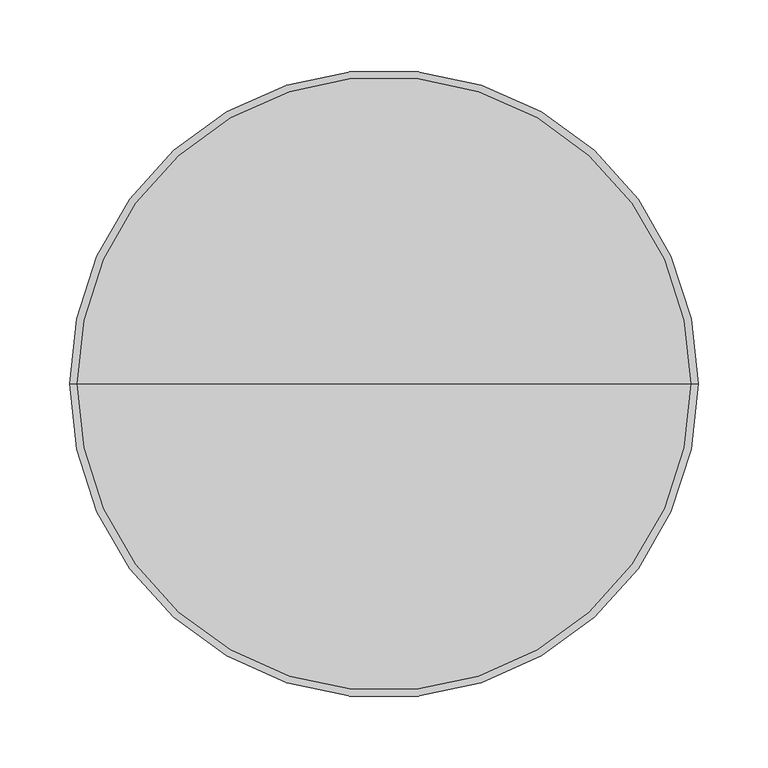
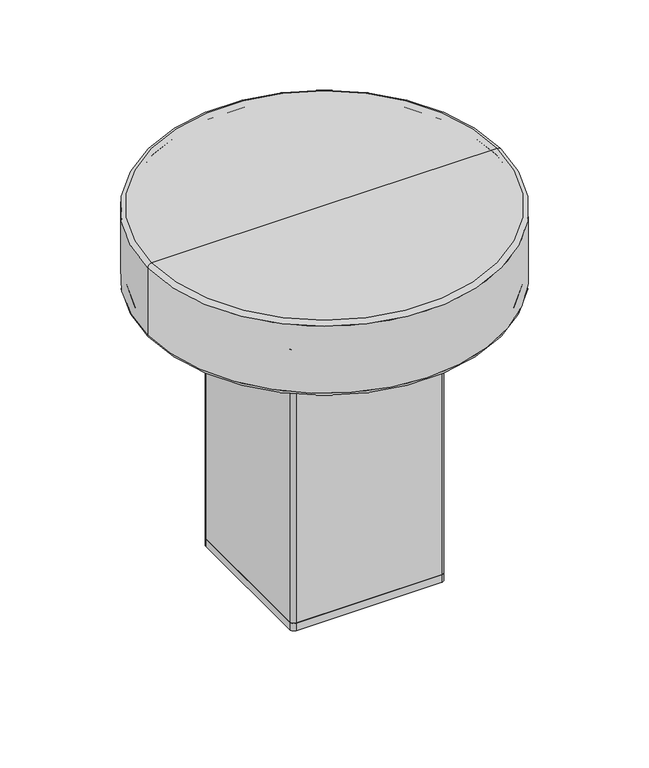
"""IFC4 building model written with IfcOpenShell, lengths in millimetres: furniture geometry, Norr11 - Naked - Side Table : Norr11 - Naked - Side Table."""

from ifc_helpers import new_model, si_unit, point, frame, origin, place, context, project, spatial, polyline, circle_curve, ellipse_curve, trimmed, source, transform, mapped, element, save
from ifc_brep_helpers import plane_surface, cylinder_surface, revolved_surface, advanced_brep


def furniture_36564df5(model_context):
    return source(origin(), model_context, "Body", "AdvancedBrep", [
        advanced_brep(
        [(-92.5, 97.5, 10.0), (-97.5, 92.5, 10.0), (-97.5, -92.5, 10.0), (-92.5, -97.5, 10.0), (92.5, -97.5, 10.0), (97.5, -92.5, 10.0), (97.5, 92.5, 10.0), (92.5, 97.5, 10.0), (86.5, 91.5, 10.0), (91.5, 86.5, 10.0), (91.5, -86.5, 10.0), (86.5, -91.5, 10.0), (-86.5, -91.5, 10.0), (-91.5, -86.5, 10.0), (-91.5, 86.5, 10.0), (-86.5, 91.5, 10.0), (-92.5, 97.5, 0.0), (92.5, 97.5, 0.0), (97.5, 92.5, 0.0), (97.5, -92.5, 0.0), (92.5, -97.5, 0.0), (-92.5, -97.5, 0.0), (-97.5, -92.5, 0.0), (-97.5, 92.5, 0.0), (86.5, 91.5, 40.0), (-86.5, 91.5, 40.0), (-91.5, 86.5, 40.0), (-91.5, -86.5, 40.0), (-86.5, -91.5, 40.0), (86.5, -91.5, 40.0), (91.5, -86.5, 40.0), (91.5, 86.5, 40.0)],
        [
            (0, 1, circle_curve(frame((-92.5, 92.5, 10.0), z_axis=(0.0, 0.0, 1.0), x_axis=(1.0, 0.0, 0.0)), 5.0)),
            (1, 2),
            (2, 3, circle_curve(frame((-92.5, -92.5, 10.0), z_axis=(0.0, 0.0, 1.0), x_axis=(1.0, 0.0, 0.0)), 5.0)),
            (3, 4),
            (4, 5, circle_curve(frame((92.5, -92.5, 10.0), z_axis=(0.0, 0.0, 1.0), x_axis=(1.0, 0.0, 0.0)), 5.0)),
            (5, 6),
            (6, 7, circle_curve(frame((92.5, 92.5, 10.0), z_axis=(0.0, 0.0, 1.0), x_axis=(1.0, 0.0, 0.0)), 5.0)),
            (7, 0),
            (8, 9, circle_curve(frame((86.5, 86.5, 10.0), z_axis=(0.0, 0.0, -1.0), x_axis=(1.0, 0.0, 0.0)), 5.0)),
            (9, 10),
            (10, 11, circle_curve(frame((86.5, -86.5, 10.0), z_axis=(0.0, 0.0, -1.0), x_axis=(1.0, 0.0, 0.0)), 5.0)),
            (11, 12),
            (12, 13, circle_curve(frame((-86.5, -86.5, 10.0), z_axis=(0.0, 0.0, -1.0), x_axis=(1.0, 0.0, 0.0)), 5.0)),
            (13, 14),
            (14, 15, circle_curve(frame((-86.5, 86.5, 10.0), z_axis=(0.0, 0.0, -1.0), x_axis=(1.0, 0.0, 0.0)), 5.0)),
            (15, 8),
            (16, 17),
            (17, 18, circle_curve(frame((92.5, 92.5, 0.0), z_axis=(0.0, 0.0, -1.0), x_axis=(1.0, 0.0, 0.0)), 5.0)),
            (18, 19),
            (19, 20, circle_curve(frame((92.5, -92.5, 0.0), z_axis=(0.0, 0.0, -1.0), x_axis=(1.0, 0.0, 0.0)), 5.0)),
            (20, 21),
            (21, 22, circle_curve(frame((-92.5, -92.5, 0.0), z_axis=(0.0, 0.0, -1.0), x_axis=(1.0, 0.0, 0.0)), 5.0)),
            (22, 23),
            (23, 16, circle_curve(frame((-92.5, 92.5, 0.0), z_axis=(0.0, 0.0, -1.0), x_axis=(1.0, 0.0, 0.0)), 5.0)),
            (0, 16),
            (23, 1),
            (22, 2),
            (21, 3),
            (20, 4),
            (19, 5),
            (18, 6),
            (17, 7),
            (24, 25),
            (25, 26, circle_curve(frame((-86.5, 86.5, 40.0), z_axis=(0.0, 0.0, 1.0), x_axis=(1.0, 0.0, 0.0)), 5.0)),
            (26, 27),
            (27, 28, circle_curve(frame((-86.5, -86.5, 40.0), z_axis=(0.0, 0.0, 1.0), x_axis=(1.0, 0.0, 0.0)), 5.0)),
            (28, 29),
            (29, 30, circle_curve(frame((86.5, -86.5, 40.0), z_axis=(0.0, 0.0, 1.0), x_axis=(1.0, 0.0, 0.0)), 5.0)),
            (30, 31),
            (31, 24, circle_curve(frame((86.5, 86.5, 40.0), z_axis=(0.0, 0.0, 1.0), x_axis=(1.0, 0.0, 0.0)), 5.0)),
            (31, 9),
            (8, 24),
            (30, 10),
            (29, 11),
            (28, 12),
            (27, 13),
            (26, 14),
            (25, 15),
        ],
        [
            plane_surface(frame((-87.5, 92.5, 10.0), z_axis=(0.0, 0.0, 1.0), x_axis=(0.0, 1.0, 0.0))),
            plane_surface(frame((-87.5, 92.5, 0.0), z_axis=(0.0, 0.0, -1.0), x_axis=(0.0, -1.0, 0.0))),
            cylinder_surface(frame((-92.5, 92.5, 0.0), z_axis=(0.0, 0.0, 1.0), x_axis=(1.0, 0.0, 0.0)), 5.0),
            plane_surface(frame((-97.5, 92.5, 10.0), z_axis=(-1.0, 0.0, 0.0), x_axis=(0.0, 0.0, -1.0))),
            cylinder_surface(frame((-92.5, -92.5, 0.0), z_axis=(0.0, 0.0, 1.0), x_axis=(1.0, 0.0, 0.0)), 5.0),
            plane_surface(frame((-92.5, -97.5, 10.0), z_axis=(0.0, -1.0, 0.0), x_axis=(0.0, 0.0, -1.0))),
            cylinder_surface(frame((92.5, -92.5, 0.0), z_axis=(0.0, 0.0, 1.0), x_axis=(1.0, 0.0, 0.0)), 5.0),
            plane_surface(frame((97.5, -92.5, 10.0), z_axis=(1.0, 0.0, 0.0), x_axis=(0.0, 0.0, -1.0))),
            cylinder_surface(frame((92.5, 92.5, 0.0), z_axis=(0.0, 0.0, 1.0), x_axis=(1.0, 0.0, 0.0)), 5.0),
            plane_surface(frame((92.5, 97.5, 10.0), z_axis=(0.0, 1.0, 0.0), x_axis=(0.0, 0.0, -1.0))),
            plane_surface(frame((-139.0, 91.5, 40.0), z_axis=(0.0, 0.0, 1.0), x_axis=(-1.0, 0.0, 0.0))),
            cylinder_surface(frame((86.5, 86.5, 10.0), z_axis=(0.0, 0.0, 1.0), x_axis=(1.0, 0.0, 0.0)), 5.0),
            plane_surface(frame((91.5, -86.5, 40.0), z_axis=(1.0, 0.0, 0.0), x_axis=(0.0, 0.0, -1.0))),
            cylinder_surface(frame((86.5, -86.5, 10.0), z_axis=(0.0, 0.0, 1.0), x_axis=(1.0, 0.0, 0.0)), 5.0),
            plane_surface(frame((-86.5, -91.5, 40.0), z_axis=(0.0, -1.0, 0.0), x_axis=(0.0, 0.0, -1.0))),
            cylinder_surface(frame((-86.5, -86.5, 10.0), z_axis=(0.0, 0.0, 1.0), x_axis=(1.0, 0.0, 0.0)), 5.0),
            plane_surface(frame((-91.5, 86.5, 40.0), z_axis=(-1.0, 0.0, 0.0), x_axis=(0.0, 0.0, -1.0))),
            cylinder_surface(frame((-86.5, 86.5, 10.0), z_axis=(0.0, 0.0, 1.0), x_axis=(1.0, 0.0, 0.0)), 5.0),
            plane_surface(frame((86.5, 91.5, 40.0), z_axis=(0.0, 1.0, 0.0), x_axis=(0.0, 0.0, -1.0))),
        ],
        [
            (0, [[1, 2, 3, 4, 5, 6, 7, 8], [9, 10, 11, 12, 13, 14, 15, 16]]),
            (1, [[17, 18, 19, 20, 21, 22, 23, 24]]),
            (2, [[-1, 25, -24, 26]]),
            (3, [[-2, -26, -23, 27]]),
            (4, [[-3, -27, -22, 28]]),
            (5, [[-4, -28, -21, 29]]),
            (6, [[-5, -29, -20, 30]]),
            (7, [[-6, -30, -19, 31]]),
            (8, [[-7, -31, -18, 32]]),
            (9, [[-8, -32, -17, -25]]),
            (10, [[33, 34, 35, 36, 37, 38, 39, 40]]),
            (11, [[-40, 41, -9, 42]]),
            (12, [[-39, 43, -10, -41]]),
            (13, [[-38, 44, -11, -43]]),
            (14, [[-37, 45, -12, -44]]),
            (15, [[-36, 46, -13, -45]]),
            (16, [[-35, 47, -14, -46]]),
            (17, [[-34, 48, -15, -47]]),
            (18, [[-33, -42, -16, -48]]),
        ],
    ),
        advanced_brep(
        [(225.0, 0.0, 475.0), (-225.0, 0.0, 475.0), (-220.0, 0.0, 480.0), (220.0, 0.0, 480.0), (225.0, 0.0, 385.0), (-225.0, 0.0, 385.0), (220.0, 0.0, 380.0), (-220.0, 0.0, 380.0), (102.5, 0.0, 380.0), (102.5, 92.5, 380.0), (92.5, 102.5, 380.0), (-92.5, 102.5, 380.0), (-102.5, 92.5, 380.0), (-102.5, 0.0, 380.0), (-102.5, -92.5, 380.0), (-92.5, -102.5, 380.0), (92.5, -102.5, 380.0), (102.5, -92.5, 380.0), (214.0, 0.0, 386.0), (-214.0, 0.0, 386.0), (-96.5, 0.0, 386.0), (-96.5, 86.5, 386.0), (-86.5, 96.5, 386.0), (86.5, 96.5, 386.0), (96.5, 86.5, 386.0), (96.5, 0.0, 386.0), (96.5, -86.5, 386.0), (86.5, -96.5, 386.0), (-86.5, -96.5, 386.0), (-96.5, -86.5, 386.0), (219.0, 0.0, 391.0), (-219.0, 0.0, 391.0), (219.0, 0.0, 469.0), (-219.0, 0.0, 469.0), (214.0, 0.0, 474.0), (-214.0, 0.0, 474.0), (0.0, 0.0, 474.0), (0.0, 0.0, 480.0), (-92.5, 97.5, 10.0), (92.5, 97.5, 10.0), (97.5, 92.5, 10.0), (97.5, -92.5, 10.0), (92.5, -97.5, 10.0), (-92.5, -97.5, 10.0), (-97.5, -92.5, 10.0), (-97.5, 92.5, 10.0), (-91.5, -86.5, 10.0), (-86.5, -91.5, 10.0), (86.5, -91.5, 10.0), (91.5, -86.5, 10.0), (91.5, 86.5, 10.0), (86.5, 91.5, 10.0), (-86.5, 91.5, 10.0), (-91.5, 86.5, 10.0), (-97.5, 92.5, 375.0), (-92.5, 97.5, 375.0), (-97.5, -92.5, 375.0), (-92.5, -97.5, 375.0), (92.5, -97.5, 375.0), (97.5, -92.5, 375.0), (97.5, 92.5, 375.0), (92.5, 97.5, 375.0), (-91.5, -86.5, 380.0), (-91.5, -86.5, 381.0), (-86.5, -91.5, 381.0), (-86.5, -91.5, 380.0), (86.5, -91.5, 381.0), (86.5, -91.5, 380.0), (91.5, -86.5, 381.0), (91.5, -86.5, 380.0), (91.5, 86.5, 381.0), (91.5, 86.5, 380.0), (86.5, 91.5, 381.0), (86.5, 91.5, 380.0), (-86.5, 91.5, 381.0), (-86.5, 91.5, 380.0), (-91.5, 86.5, 381.0), (-91.5, 86.5, 380.0)],
        [
            (0, 1, circle_curve(frame((0.0, 0.0, 475.0), z_axis=(0.0, 0.0, 1.0), x_axis=(-1.0, 0.0, 0.0)), 225.0)),
            (1, 2, circle_curve(frame((-220.0, 0.0, 475.0), z_axis=(0.0, 1.0, 0.0), x_axis=(1.0, 0.0, 0.0)), 5.0)),
            (2, 3, circle_curve(frame((0.0, 0.0, 480.0), z_axis=(0.0, 0.0, -1.0), x_axis=(-1.0, 0.0, 0.0)), 220.0)),
            (3, 0, circle_curve(frame((220.0, 0.0, 475.0), z_axis=(0.0, 1.0, 0.0), x_axis=(-1.0, 0.0, 0.0)), 5.0)),
            (1, 0, circle_curve(frame((0.0, 0.0, 475.0), z_axis=(0.0, 0.0, 1.0), x_axis=(-1.0, 0.0, 0.0)), 225.0)),
            (3, 2, circle_curve(frame((0.0, 0.0, 480.0), z_axis=(0.0, 0.0, -1.0), x_axis=(-1.0, 0.0, 0.0)), 220.0)),
            (0, 4),
            (4, 5, circle_curve(frame((0.0, 0.0, 385.0), z_axis=(0.0, 0.0, 1.0), x_axis=(-1.0, 0.0, 0.0)), 225.0)),
            (5, 1),
            (5, 4, circle_curve(frame((0.0, 0.0, 385.0), z_axis=(0.0, 0.0, 1.0), x_axis=(-1.0, 0.0, 0.0)), 225.0)),
            (4, 6, circle_curve(frame((220.0, 0.0, 385.0), z_axis=(0.0, 1.0, 0.0), x_axis=(-1.0, 0.0, 0.0)), 5.0)),
            (6, 7, circle_curve(frame((0.0, 0.0, 380.0), z_axis=(0.0, 0.0, 1.0), x_axis=(-1.0, 0.0, 0.0)), 220.0)),
            (7, 5, circle_curve(frame((-220.0, 0.0, 385.0), z_axis=(0.0, 1.0, 0.0), x_axis=(1.0, 0.0, 0.0)), 5.0)),
            (7, 6, circle_curve(frame((0.0, 0.0, 380.0), z_axis=(0.0, 0.0, 1.0), x_axis=(-1.0, 0.0, 0.0)), 220.0)),
            (6, 8),
            (8, 9),
            (9, 10, circle_curve(frame((92.5, 92.5, 380.0), z_axis=(0.0, 0.0, 1.0), x_axis=(1.0, 0.0, 0.0)), 10.0)),
            (10, 11),
            (11, 12, circle_curve(frame((-92.5, 92.5, 380.0), z_axis=(0.0, 0.0, 1.0), x_axis=(0.0, 1.0, 0.0)), 10.0)),
            (12, 13),
            (13, 7),
            (13, 14),
            (14, 15, circle_curve(frame((-92.5, -92.5, 380.0), z_axis=(0.0, 0.0, 1.0), x_axis=(-1.0, 0.0, 0.0)), 10.0)),
            (15, 16),
            (16, 17, circle_curve(frame((92.5, -92.5, 380.0), z_axis=(0.0, 0.0, 1.0), x_axis=(0.0, -1.0, 0.0)), 10.0)),
            (17, 8),
            (18, 19, circle_curve(frame((0.0, 0.0, 386.0), z_axis=(0.0, 0.0, 1.0), x_axis=(-1.0, 0.0, 0.0)), 214.0)),
            (19, 20),
            (20, 21),
            (21, 22, circle_curve(frame((-86.5, 86.5, 386.0), z_axis=(0.0, 0.0, -1.0), x_axis=(0.0, 1.0, 0.0)), 10.0)),
            (22, 23),
            (23, 24, circle_curve(frame((86.5, 86.5, 386.0), z_axis=(0.0, 0.0, -1.0), x_axis=(1.0, 0.0, 0.0)), 10.0)),
            (24, 25),
            (25, 18),
            (19, 18, circle_curve(frame((0.0, 0.0, 386.0), z_axis=(0.0, 0.0, 1.0), x_axis=(-1.0, 0.0, 0.0)), 214.0)),
            (25, 26),
            (26, 27, circle_curve(frame((86.5, -86.5, 386.0), z_axis=(0.0, 0.0, -1.0), x_axis=(0.0, -1.0, 0.0)), 10.0)),
            (27, 28),
            (28, 29, circle_curve(frame((-86.5, -86.5, 386.0), z_axis=(0.0, 0.0, -1.0), x_axis=(-1.0, 0.0, 0.0)), 10.0)),
            (29, 20),
            (18, 30, circle_curve(frame((214.0, 0.0, 391.0), z_axis=(0.0, -1.0, 0.0), x_axis=(-1.0, 0.0, 0.0)), 5.0)),
            (30, 31, circle_curve(frame((0.0, 0.0, 391.0), z_axis=(0.0, 0.0, 1.0), x_axis=(-1.0, 0.0, 0.0)), 219.0)),
            (31, 19, circle_curve(frame((-214.0, 0.0, 391.0), z_axis=(0.0, -1.0, 0.0), x_axis=(1.0, 0.0, 0.0)), 5.0)),
            (31, 30, circle_curve(frame((0.0, 0.0, 391.0), z_axis=(0.0, 0.0, 1.0), x_axis=(-1.0, 0.0, 0.0)), 219.0)),
            (30, 32),
            (32, 33, circle_curve(frame((0.0, 0.0, 469.0), z_axis=(0.0, 0.0, 1.0), x_axis=(-1.0, 0.0, 0.0)), 219.0)),
            (33, 31),
            (33, 32, circle_curve(frame((0.0, 0.0, 469.0), z_axis=(0.0, 0.0, 1.0), x_axis=(-1.0, 0.0, 0.0)), 219.0)),
            (32, 34, circle_curve(frame((214.0, 0.0, 469.0), z_axis=(0.0, -1.0, 0.0), x_axis=(-1.0, 0.0, 0.0)), 5.0)),
            (34, 35, circle_curve(frame((0.0, 0.0, 474.0), z_axis=(0.0, 0.0, 1.0), x_axis=(-1.0, 0.0, 0.0)), 214.0)),
            (35, 33, circle_curve(frame((-214.0, 0.0, 469.0), z_axis=(0.0, -1.0, 0.0), x_axis=(1.0, 0.0, 0.0)), 5.0)),
            (35, 34, circle_curve(frame((0.0, 0.0, 474.0), z_axis=(0.0, 0.0, 1.0), x_axis=(-1.0, 0.0, 0.0)), 214.0)),
            (34, 36),
            (36, 35),
            (2, 37),
            (37, 3),
            (38, 39),
            (39, 40, circle_curve(frame((92.5, 92.5, 10.0), z_axis=(0.0, 0.0, -1.0), x_axis=(1.0, 0.0, 0.0)), 5.0)),
            (40, 41),
            (41, 42, circle_curve(frame((92.5, -92.5, 10.0), z_axis=(0.0, 0.0, -1.0), x_axis=(1.0, 0.0, 0.0)), 5.0)),
            (42, 43),
            (43, 44, circle_curve(frame((-92.5, -92.5, 10.0), z_axis=(0.0, 0.0, -1.0), x_axis=(1.0, 0.0, 0.0)), 5.0)),
            (44, 45),
            (45, 38, circle_curve(frame((-92.5, 92.5, 10.0), z_axis=(0.0, 0.0, -1.0), x_axis=(1.0, 0.0, 0.0)), 5.0)),
            (46, 47, circle_curve(frame((-86.5, -86.5, 10.0), z_axis=(0.0, 0.0, 1.0), x_axis=(1.0, 0.0, 0.0)), 5.0)),
            (47, 48),
            (48, 49, circle_curve(frame((86.5, -86.5, 10.0), z_axis=(0.0, 0.0, 1.0), x_axis=(1.0, 0.0, 0.0)), 5.0)),
            (49, 50),
            (50, 51, circle_curve(frame((86.5, 86.5, 10.0), z_axis=(0.0, 0.0, 1.0), x_axis=(1.0, 0.0, 0.0)), 5.0)),
            (51, 52),
            (52, 53, circle_curve(frame((-86.5, 86.5, 10.0), z_axis=(0.0, 0.0, 1.0), x_axis=(1.0, 0.0, 0.0)), 5.0)),
            (53, 46),
            (45, 54),
            (54, 55, circle_curve(frame((-92.5, 92.5, 375.0), z_axis=(0.0, 0.0, -1.0), x_axis=(1.0, 0.0, 0.0)), 5.0)),
            (55, 38),
            (44, 56),
            (56, 54),
            (43, 57),
            (57, 56, circle_curve(frame((-92.5, -92.5, 375.0), z_axis=(0.0, 0.0, -1.0), x_axis=(1.0, 0.0, 0.0)), 5.0)),
            (42, 58),
            (58, 57),
            (41, 59),
            (59, 58, circle_curve(frame((92.5, -92.5, 375.0), z_axis=(0.0, 0.0, -1.0), x_axis=(1.0, 0.0, 0.0)), 5.0)),
            (40, 60),
            (60, 59),
            (39, 61),
            (61, 60, circle_curve(frame((92.5, 92.5, 375.0), z_axis=(0.0, 0.0, -1.0), x_axis=(1.0, 0.0, 0.0)), 5.0)),
            (55, 61),
            (62, 63),
            (63, 64, circle_curve(frame((-86.5, -86.5, 381.0), z_axis=(0.0, 0.0, 1.0), x_axis=(1.0, 0.0, 0.0)), 5.0)),
            (64, 65),
            (65, 62, circle_curve(frame((-86.5, -86.5, 380.0), z_axis=(0.0, 0.0, -1.0), x_axis=(1.0, 0.0, 0.0)), 5.0)),
            (64, 66),
            (66, 67),
            (67, 48),
            (47, 65),
            (66, 68, circle_curve(frame((86.5, -86.5, 381.0), z_axis=(0.0, 0.0, 1.0), x_axis=(1.0, 0.0, 0.0)), 5.0)),
            (68, 69),
            (69, 67, circle_curve(frame((86.5, -86.5, 380.0), z_axis=(0.0, 0.0, -1.0), x_axis=(1.0, 0.0, 0.0)), 5.0)),
            (68, 70),
            (70, 71),
            (71, 50),
            (49, 69),
            (70, 72, circle_curve(frame((86.5, 86.5, 381.0), z_axis=(0.0, 0.0, 1.0), x_axis=(1.0, 0.0, 0.0)), 5.0)),
            (72, 73),
            (73, 71, circle_curve(frame((86.5, 86.5, 380.0), z_axis=(0.0, 0.0, -1.0), x_axis=(1.0, 0.0, 0.0)), 5.0)),
            (72, 74),
            (74, 75),
            (75, 52),
            (51, 73),
            (74, 76, circle_curve(frame((-86.5, 86.5, 381.0), z_axis=(0.0, 0.0, 1.0), x_axis=(1.0, 0.0, 0.0)), 5.0)),
            (76, 77),
            (77, 75, circle_curve(frame((-86.5, 86.5, 380.0), z_axis=(0.0, 0.0, -1.0), x_axis=(1.0, 0.0, 0.0)), 5.0)),
            (62, 46),
            (53, 77),
            (76, 63),
            (14, 56, circle_curve(frame((-102.5, -92.5, 375.0), z_axis=(0.0, 1.0, 0.0), x_axis=(1.0, 0.0, 0.0)), 5.0)),
            (57, 15, circle_curve(frame((-92.5, -102.5, 375.0), z_axis=(1.0, 0.0, 0.0), x_axis=(0.0, 1.0, 0.0)), 5.0)),
            (58, 16, circle_curve(frame((92.5, -102.5, 375.0), z_axis=(1.0, 0.0, 0.0), x_axis=(0.0, 1.0, 0.0)), 5.0)),
            (59, 17, circle_curve(frame((102.5, -92.5, 375.0), z_axis=(0.0, 1.0, 0.0), x_axis=(-1.0, 0.0, 0.0)), 5.0)),
            (60, 9, circle_curve(frame((102.5, 92.5, 375.0), z_axis=(0.0, 1.0, 0.0), x_axis=(-1.0, 0.0, 0.0)), 5.0)),
            (61, 10, circle_curve(frame((92.5, 102.5, 375.0), z_axis=(-1.0, 0.0, 0.0), x_axis=(0.0, -1.0, 0.0)), 5.0)),
            (55, 11, circle_curve(frame((-92.5, 102.5, 375.0), z_axis=(-1.0, 0.0, 0.0), x_axis=(0.0, -1.0, 0.0)), 5.0)),
            (54, 12, circle_curve(frame((-102.5, 92.5, 375.0), z_axis=(0.0, -1.0, 0.0), x_axis=(1.0, 0.0, 0.0)), 5.0)),
            (28, 64, circle_curve(frame((-86.5, -96.5, 381.0), z_axis=(-1.0, 0.0, 0.0), x_axis=(0.0, 1.0, 0.0)), 5.0)),
            (63, 29, circle_curve(frame((-96.5, -86.5, 381.0), z_axis=(0.0, -1.0, 0.0), x_axis=(1.0, 0.0, 0.0)), 5.0)),
            (27, 66, circle_curve(frame((86.5, -96.5, 381.0), z_axis=(-1.0, 0.0, 0.0), x_axis=(0.0, 1.0, 0.0)), 5.0)),
            (26, 68, circle_curve(frame((96.5, -86.5, 381.0), z_axis=(0.0, -1.0, 0.0), x_axis=(-1.0, 0.0, 0.0)), 5.0)),
            (24, 70, circle_curve(frame((96.5, 86.5, 381.0), z_axis=(0.0, -1.0, 0.0), x_axis=(-1.0, 0.0, 0.0)), 5.0)),
            (23, 72, circle_curve(frame((86.5, 96.5, 381.0), z_axis=(1.0, 0.0, 0.0), x_axis=(0.0, -1.0, 0.0)), 5.0)),
            (22, 74, circle_curve(frame((-86.5, 96.5, 381.0), z_axis=(1.0, 0.0, 0.0), x_axis=(0.0, -1.0, 0.0)), 5.0)),
            (21, 76, circle_curve(frame((-96.5, 86.5, 381.0), z_axis=(0.0, 1.0, 0.0), x_axis=(1.0, 0.0, 0.0)), 5.0)),
        ],
        [
            revolved_surface(trimmed(ellipse_curve(frame((-220.0, 0.0, 475.0), z_axis=(0.0, -1.0, 0.0), x_axis=(1.0, 0.0, 0.0)), 5.0, 5.0), [point((-220.0, 0.0, 480.0))], [point((-225.0, 0.0, 475.0))], True, "CARTESIAN"), (0.0, 0.0, 445.0), (0.0, 0.0, -1.0)),
            cylinder_surface(frame((0.0, 0.0, 445.0), z_axis=(0.0, 0.0, -1.0), x_axis=(-1.0, 0.0, 0.0)), 225.0),
            revolved_surface(trimmed(ellipse_curve(frame((-220.0, 0.0, 385.0), z_axis=(0.0, -1.0, 0.0), x_axis=(1.0, 0.0, 0.0)), 5.0, 5.0), [point((-225.0, 0.0, 385.0))], [point((-220.0, 0.0, 380.0))], True, "CARTESIAN"), (0.0, 0.0, 445.0), (0.0, 0.0, -1.0)),
            plane_surface(frame((0.0, 0.0, 380.0), z_axis=(0.0, 0.0, -1.0), x_axis=(-1.0, 0.0, 0.0))),
            plane_surface(frame((0.0, 0.0, 386.0), z_axis=(0.0, 0.0, 1.0), x_axis=(-1.0, 0.0, 0.0))),
            revolved_surface(trimmed(ellipse_curve(frame((-214.0, 0.0, 391.0), z_axis=(0.0, 1.0, 0.0), x_axis=(1.0, 0.0, 0.0)), 5.0, 5.0), [point((-214.0, 0.0, 386.0))], [point((-219.0, 0.0, 391.0))], True, "CARTESIAN"), (0.0, 0.0, 445.0), (0.0, 0.0, -1.0)),
            revolved_surface(polyline([(-219.0, 0.0, 391.0), (-219.0, 0.0, 469.0)]), (0.0, 0.0, 445.0), (0.0, 0.0, -1.0)),
            revolved_surface(trimmed(ellipse_curve(frame((-214.0, 0.0, 469.0), z_axis=(0.0, 1.0, 0.0), x_axis=(1.0, 0.0, 0.0)), 5.0, 5.0), [point((-219.0, 0.0, 469.0))], [point((-214.0, 0.0, 474.0))], True, "CARTESIAN"), (0.0, 0.0, 445.0), (0.0, 0.0, -1.0)),
            plane_surface(frame((0.0, 0.0, 474.0), z_axis=(0.0, 0.0, -1.0), x_axis=(-1.0, 0.0, 0.0))),
            plane_surface(frame((0.0, 0.0, 480.0), z_axis=(0.0, 0.0, 1.0), x_axis=(-1.0, 0.0, 0.0))),
            plane_surface(frame((-87.5, 92.5, 10.0), z_axis=(0.0, 0.0, -1.0), x_axis=(0.0, -1.0, 0.0))),
            cylinder_surface(frame((-92.5, 92.5, 10.0), z_axis=(0.0, 0.0, 1.0), x_axis=(1.0, 0.0, 0.0)), 5.0),
            plane_surface(frame((-97.5, 92.5, 380.0), z_axis=(-1.0, 0.0, 0.0), x_axis=(0.0, 0.0, -1.0))),
            cylinder_surface(frame((-92.5, -92.5, 10.0), z_axis=(0.0, 0.0, 1.0), x_axis=(1.0, 0.0, 0.0)), 5.0),
            plane_surface(frame((-92.5, -97.5, 380.0), z_axis=(0.0, -1.0, 0.0), x_axis=(0.0, 0.0, -1.0))),
            cylinder_surface(frame((92.5, -92.5, 10.0), z_axis=(0.0, 0.0, 1.0), x_axis=(1.0, 0.0, 0.0)), 5.0),
            plane_surface(frame((97.5, -92.5, 380.0), z_axis=(1.0, 0.0, 0.0), x_axis=(0.0, 0.0, -1.0))),
            cylinder_surface(frame((92.5, 92.5, 10.0), z_axis=(0.0, 0.0, 1.0), x_axis=(1.0, 0.0, 0.0)), 5.0),
            plane_surface(frame((92.5, 97.5, 380.0), z_axis=(0.0, 1.0, 0.0), x_axis=(0.0, 0.0, -1.0))),
            revolved_surface(polyline([(-81.5, -86.5, 381.0), (-81.5, -86.5, 380.0)]), (-86.5, -86.5, 240.3530592), (0.0, 0.0, 1.0)),
            plane_surface(frame((-86.5, -91.5, 406.1624737), z_axis=(0.0, 1.0, 0.0), x_axis=(0.0, 0.0, -1.0))),
            revolved_surface(polyline([(91.5, -86.5, 381.0), (91.5, -86.5, 380.0)]), (86.5, -86.5, 240.3530592), (0.0, 0.0, 1.0)),
            plane_surface(frame((91.5, -86.5, 406.1624737), z_axis=(-1.0, 0.0, 0.0), x_axis=(0.0, 0.0, -1.0))),
            revolved_surface(polyline([(91.5, 86.5, 381.0), (91.5, 86.5, 380.0)]), (86.5, 86.5, 240.3530592), (0.0, 0.0, 1.0)),
            plane_surface(frame((86.5, 91.5, 406.1624737), z_axis=(0.0, -1.0, 0.0), x_axis=(0.0, 0.0, -1.0))),
            revolved_surface(polyline([(-81.5, 86.5, 381.0), (-81.5, 86.5, 380.0)]), (-86.5, 86.5, 240.3530592), (0.0, 0.0, 1.0)),
            plane_surface(frame((-91.5, 86.5, 406.1624737), z_axis=(1.0, 0.0, 0.0), x_axis=(0.0, 0.0, -1.0))),
            revolved_surface(polyline([(-81.5, 86.5, 10.0), (-81.5, 86.5, 380.0)]), (-86.5, 86.5, 0.0), (0.0, 0.0, -1.0)),
            revolved_surface(polyline([(91.5, 86.5, 10.0), (91.5, 86.5, 380.0)]), (86.5, 86.5, 0.0), (0.0, 0.0, -1.0)),
            revolved_surface(polyline([(91.5, -86.5, 10.0), (91.5, -86.5, 380.0)]), (86.5, -86.5, 0.0), (0.0, 0.0, -1.0)),
            revolved_surface(polyline([(-81.5, -86.5, 10.0), (-81.5, -86.5, 380.0)]), (-86.5, -86.5, 0.0), (0.0, 0.0, -1.0)),
            revolved_surface(trimmed(ellipse_curve(frame((-102.5, -92.5, 375.0), z_axis=(0.0, -1.0, 0.0), x_axis=(1.0, 0.0, 0.0)), 5.0, 5.0), [point((-97.5, -92.5, 375.0))], [point((-102.5, -92.5, 380.0))], True, "CARTESIAN"), (-92.5, -92.5, 0.0), (0.0, 0.0, 1.0)),
            revolved_surface(polyline([(92.5, -97.5, 375.0), (-92.5, -97.5, 375.0)]), (-92.5, -102.5, 375.0), (1.0, 0.0, 0.0)),
            revolved_surface(trimmed(ellipse_curve(frame((92.5, -102.5, 375.0), z_axis=(1.0, 0.0, 0.0), x_axis=(0.0, 1.0, 0.0)), 5.0, 5.0), [point((92.5, -97.5, 375.0))], [point((92.5, -102.5, 380.0))], True, "CARTESIAN"), (92.5, -92.5, 0.0), (0.0, 0.0, 1.0)),
            revolved_surface(polyline([(97.5, 92.5, 375.0), (97.5, -92.5, 375.0)]), (102.5, -92.5, 375.0), (0.0, 1.0, 0.0)),
            revolved_surface(trimmed(ellipse_curve(frame((102.5, 92.5, 375.0), z_axis=(0.0, 1.0, 0.0), x_axis=(-1.0, 0.0, 0.0)), 5.0, 5.0), [point((97.5, 92.5, 375.0))], [point((102.5, 92.5, 380.0))], True, "CARTESIAN"), (92.5, 92.5, 0.0), (0.0, 0.0, 1.0)),
            revolved_surface(polyline([(-92.5, 97.5, 375.0), (92.5, 97.5, 375.0)]), (92.5, 102.5, 375.0), (-1.0, 0.0, 0.0)),
            revolved_surface(trimmed(ellipse_curve(frame((-92.5, 102.5, 375.0), z_axis=(-1.0, 0.0, 0.0), x_axis=(0.0, -1.0, 0.0)), 5.0, 5.0), [point((-92.5, 97.5, 375.0))], [point((-92.5, 102.5, 380.0))], True, "CARTESIAN"), (-92.5, 92.5, 0.0), (0.0, 0.0, 1.0)),
            revolved_surface(polyline([(-97.5, -92.5, 375.0), (-97.5, 92.5, 375.0)]), (-102.5, 92.5, 375.0), (0.0, -1.0, 0.0)),
            revolved_surface(trimmed(ellipse_curve(frame((-96.5, -86.5, 381.0), z_axis=(0.0, 1.0, 0.0), x_axis=(1.0, 0.0, 0.0)), 5.0, 5.0), [point((-96.5, -86.5, 386.0))], [point((-91.5, -86.5, 381.0))], True, "CARTESIAN"), (-86.5, -86.5, 0.0), (0.0, 0.0, 1.0)),
            cylinder_surface(frame((-86.5, -96.5, 381.0), z_axis=(1.0, 0.0, 0.0), x_axis=(0.0, 1.0, 0.0)), 5.0),
            revolved_surface(trimmed(ellipse_curve(frame((86.5, -96.5, 381.0), z_axis=(-1.0, 0.0, 0.0), x_axis=(0.0, 1.0, 0.0)), 5.0, 5.0), [point((86.5, -96.5, 386.0))], [point((86.5, -91.5, 381.0))], True, "CARTESIAN"), (86.5, -86.5, 0.0), (0.0, 0.0, 1.0)),
            cylinder_surface(frame((96.5, -86.5, 381.0), z_axis=(0.0, 1.0, 0.0), x_axis=(-1.0, 0.0, 0.0)), 5.0),
            revolved_surface(trimmed(ellipse_curve(frame((96.5, 86.5, 381.0), z_axis=(0.0, -1.0, 0.0), x_axis=(-1.0, 0.0, 0.0)), 5.0, 5.0), [point((96.5, 86.5, 386.0))], [point((91.5, 86.5, 381.0))], True, "CARTESIAN"), (86.5, 86.5, 0.0), (0.0, 0.0, 1.0)),
            cylinder_surface(frame((86.5, 96.5, 381.0), z_axis=(-1.0, 0.0, 0.0), x_axis=(0.0, -1.0, 0.0)), 5.0),
            revolved_surface(trimmed(ellipse_curve(frame((-86.5, 96.5, 381.0), z_axis=(1.0, 0.0, 0.0), x_axis=(0.0, -1.0, 0.0)), 5.0, 5.0), [point((-86.5, 96.5, 386.0))], [point((-86.5, 91.5, 381.0))], True, "CARTESIAN"), (-86.5, 86.5, 0.0), (0.0, 0.0, 1.0)),
            cylinder_surface(frame((-96.5, 86.5, 381.0), z_axis=(0.0, -1.0, 0.0), x_axis=(1.0, 0.0, 0.0)), 5.0),
        ],
        [
            (0, [[1, 2, 3, 4]]),
            (0, [[-2, 5, -4, 6]]),
            (1, [[-1, 7, 8, 9]]),
            (1, [[-5, -9, 10, -7]]),
            (2, [[-8, 11, 12, 13]]),
            (2, [[-10, -13, 14, -11]]),
            (3, [[-12, 15, 16, 17, 18, 19, 20, 21]]),
            (3, [[-14, -21, 22, 23, 24, 25, 26, -15]]),
            (4, [[27, 28, 29, 30, 31, 32, 33, 34]]),
            (4, [[35, -34, 36, 37, 38, 39, 40, -28]]),
            (5, [[-27, 41, 42, 43]]),
            (5, [[-35, -43, 44, -41]]),
            (6, [[-42, 45, 46, 47]]),
            (6, [[-44, -47, 48, -45]]),
            (7, [[-46, 49, 50, 51]]),
            (7, [[-48, -51, 52, -49]]),
            (8, [[-50, 53, 54]]),
            (8, [[-52, -54, -53]]),
            (9, [[-3, 55, 56]]),
            (9, [[-6, -56, -55]]),
            (10, [[57, 58, 59, 60, 61, 62, 63, 64], [65, 66, 67, 68, 69, 70, 71, 72]]),
            (11, [[-64, 73, 74, 75]]),
            (12, [[-63, 76, 77, -73]]),
            (13, [[-62, 78, 79, -76]]),
            (14, [[-61, 80, 81, -78]]),
            (15, [[-60, 82, 83, -80]]),
            (16, [[-59, 84, 85, -82]]),
            (17, [[-58, 86, 87, -84]]),
            (18, [[-57, -75, 88, -86]]),
            (19, [[89, 90, 91, 92]]),
            (20, [[-91, 93, 94, 95, -66, 96]]),
            (21, [[-94, 97, 98, 99]]),
            (22, [[-98, 100, 101, 102, -68, 103]]),
            (23, [[-101, 104, 105, 106]]),
            (24, [[-105, 107, 108, 109, -70, 110]]),
            (25, [[-108, 111, 112, 113]]),
            (26, [[-89, 114, -72, 115, -112, 116]]),
            (27, [[-71, -109, -113, -115]]),
            (28, [[-69, -102, -106, -110]]),
            (29, [[-67, -95, -99, -103]]),
            (30, [[-65, -114, -92, -96]]),
            (31, [[117, -79, 118, -23]]),
            (32, [[-118, -81, 119, -24]]),
            (33, [[-119, -83, 120, -25]]),
            (34, [[-120, -85, 121, -16, -26]]),
            (35, [[-121, -87, 122, -17]]),
            (36, [[-122, -88, 123, -18]]),
            (37, [[-123, -74, 124, -19]]),
            (38, [[-117, -22, -20, -124, -77]]),
            (39, [[125, -90, 126, -39]]),
            (40, [[-125, -38, 127, -93]]),
            (41, [[-127, -37, 128, -97]]),
            (42, [[-128, -36, -33, 129, -100]]),
            (43, [[-129, -32, 130, -104]]),
            (44, [[-130, -31, 131, -107]]),
            (45, [[-131, -30, 132, -111]]),
            (46, [[-126, -116, -132, -29, -40]]),
        ],
    ),
    ])


if __name__ == "__main__":
    model = new_model("IFC4")
    model_context = context("Model", 3, world=origin())
    ifc_project = project(units=[si_unit("LENGTHUNIT", "METRE", prefix="MILLI")], contexts=[model_context])
    site = spatial("IfcSite", under=ifc_project)
    building = spatial("IfcBuilding", under=site)
    placement = place(None, origin())
    furniture_shape = furniture_36564df5(model_context)
    element("IfcFurniture", 1, ObjectType="Norr11 - Naked - Side Table : Norr11 - Naked - Side Table", at=placement, inside=building, context=model_context, shape_type="MappedRepresentation", body=[
        mapped(furniture_shape, transform((0.0, 0.0, 0.0), x_axis=(1.0, 0.0, 0.0), y_axis=(0.0, 1.0, 0.0), z_axis=(0.0, 0.0, 1.0))),
    ])
    save(model, "model.ifc")
